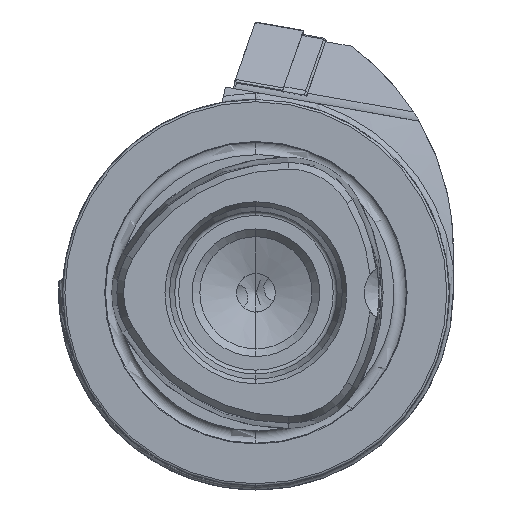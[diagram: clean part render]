
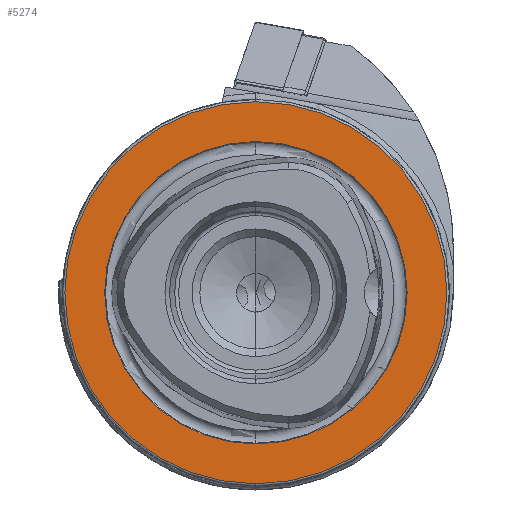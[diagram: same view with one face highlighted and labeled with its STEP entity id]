
A CAD part, left-side view. The second image highlights one B-rep face of the part: STEP entity #5274.
In plain terms, the highlighted planar face has unit normal (-1, 0, 0).
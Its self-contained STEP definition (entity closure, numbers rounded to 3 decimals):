
#309 = CARTESIAN_POINT ( 'NONE',  ( 0., 0., 0. ) ) ;
#317 = CARTESIAN_POINT ( 'NONE',  ( 0., 0., 24.7 ) ) ;
#366 = VERTEX_POINT ( 'NONE', #8968 ) ;
#698 = VERTEX_POINT ( 'NONE', #7393 ) ;
#1465 = EDGE_CURVE ( 'NONE', #698, #9487, #12339, .T. ) ;
#1493 = EDGE_CURVE ( 'NONE', #2385, #366, #14303, .T. ) ;
#1689 = CARTESIAN_POINT ( 'NONE',  ( 0., 0., 0. ) ) ;
#1762 = ORIENTED_EDGE ( 'NONE', *, *, #12133, .T. ) ;
#2243 = FACE_OUTER_BOUND ( 'NONE', #14899, .T. ) ;
#2385 = VERTEX_POINT ( 'NONE', #4901 ) ;
#3029 = ORIENTED_EDGE ( 'NONE', *, *, #1493, .F. ) ;
#3225 = PLANE ( 'NONE',  #5491 ) ;
#3784 = ORIENTED_EDGE ( 'NONE', *, *, #1465, .T. ) ;
#3856 = EDGE_LOOP ( 'NONE', ( #12045, #3029 ) ) ;
#4170 = DIRECTION ( 'NONE',  ( -1., 0., 0. ) ) ;
#4820 = DIRECTION ( 'NONE',  ( 0., 0., 1. ) ) ;
#4901 = CARTESIAN_POINT ( 'NONE',  ( 0., 0., -19.55 ) ) ;
#5274 = ADVANCED_FACE ( 'NONE', ( #9500, #2243 ), #3225, .F. ) ;
#5455 = CARTESIAN_POINT ( 'NONE',  ( 0., 19.55, 0. ) ) ;
#5491 = AXIS2_PLACEMENT_3D ( 'NONE', #5455, #12439, #6630 ) ;
#6053 = AXIS2_PLACEMENT_3D ( 'NONE', #12320, #13476, #14615 ) ;
#6150 = CIRCLE ( 'NONE', #13625, 24.7 ) ;
#6455 = DIRECTION ( 'NONE',  ( 0., 0., 1. ) ) ;
#6630 = DIRECTION ( 'NONE',  ( 0., 0., -1. ) ) ;
#7393 = CARTESIAN_POINT ( 'NONE',  ( 0., 0., -24.7 ) ) ;
#8885 = AXIS2_PLACEMENT_3D ( 'NONE', #1689, #9766, #13219 ) ;
#8968 = CARTESIAN_POINT ( 'NONE',  ( 0., 0., 19.55 ) ) ;
#9487 = VERTEX_POINT ( 'NONE', #317 ) ;
#9500 = FACE_BOUND ( 'NONE', #3856, .T. ) ;
#9766 = DIRECTION ( 'NONE',  ( -1., 0., 0. ) ) ;
#12045 = ORIENTED_EDGE ( 'NONE', *, *, #12720, .F. ) ;
#12133 = EDGE_CURVE ( 'NONE', #9487, #698, #6150, .T. ) ;
#12320 = CARTESIAN_POINT ( 'NONE',  ( 0., 0., 0. ) ) ;
#12339 = CIRCLE ( 'NONE', #6053, 24.7 ) ;
#12439 = DIRECTION ( 'NONE',  ( 1., 0., 0. ) ) ;
#12720 = EDGE_CURVE ( 'NONE', #366, #2385, #14302, .T. ) ;
#12802 = DIRECTION ( 'NONE',  ( -1., 0., 0. ) ) ;
#13219 = DIRECTION ( 'NONE',  ( 0., 0., 1. ) ) ;
#13476 = DIRECTION ( 'NONE',  ( -1., 0., 0. ) ) ;
#13528 = AXIS2_PLACEMENT_3D ( 'NONE', #309, #12802, #4820 ) ;
#13625 = AXIS2_PLACEMENT_3D ( 'NONE', #14596, #4170, #6455 ) ;
#14302 = CIRCLE ( 'NONE', #13528, 19.55 ) ;
#14303 = CIRCLE ( 'NONE', #8885, 19.55 ) ;
#14596 = CARTESIAN_POINT ( 'NONE',  ( 0., 0., 0. ) ) ;
#14615 = DIRECTION ( 'NONE',  ( 0., 0., 1. ) ) ;
#14899 = EDGE_LOOP ( 'NONE', ( #1762, #3784 ) ) ;
